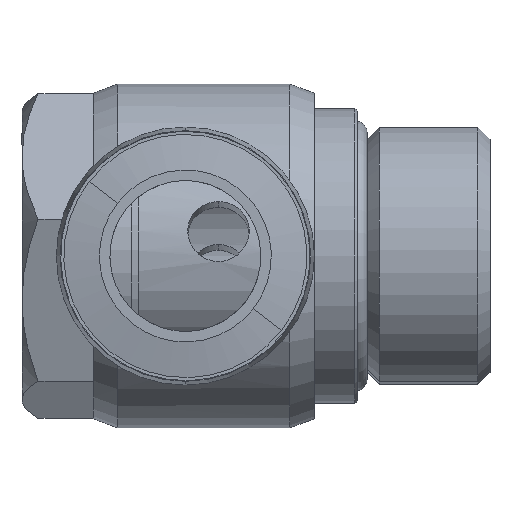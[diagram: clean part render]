
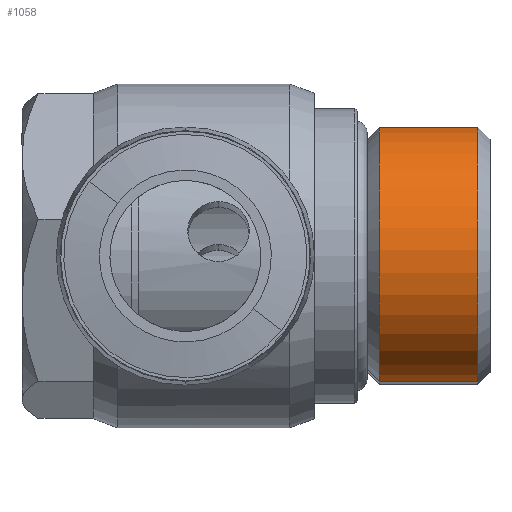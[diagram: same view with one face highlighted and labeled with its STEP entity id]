
A CAD part, left-side view. The second image highlights one B-rep face of the part: STEP entity #1058.
In plain terms, the highlighted cylindrical face has radius 10.477 mm (diameter 20.955 mm), a partial arc.
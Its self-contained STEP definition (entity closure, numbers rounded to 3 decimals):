
#354 = LINE ( 'NONE', #2047, #2406 ) ;
#552 = DIRECTION ( 'NONE',  ( 0., -1., 0. ) ) ;
#744 = VERTEX_POINT ( 'NONE', #2189 ) ;
#751 = AXIS2_PLACEMENT_3D ( 'NONE', #1001, #3947, #2445 ) ;
#778 = AXIS2_PLACEMENT_3D ( 'NONE', #3786, #552, #4212 ) ;
#827 = EDGE_LOOP ( 'NONE', ( #1186, #2454, #2687, #4398 ) ) ;
#1001 = CARTESIAN_POINT ( 'NONE',  ( 0., -27.399, 0. ) ) ;
#1058 = ADVANCED_FACE ( 'NONE', ( #4570 ), #2814, .T. ) ;
#1186 = ORIENTED_EDGE ( 'NONE', *, *, #1816, .F. ) ;
#1218 = VERTEX_POINT ( 'NONE', #2165 ) ;
#1226 = CARTESIAN_POINT ( 'NONE',  ( 0., 11.748, 10.477 ) ) ;
#1359 = EDGE_CURVE ( 'NONE', #3423, #4333, #3882, .T. ) ;
#1412 = DIRECTION ( 'NONE',  ( 0., 0., 1. ) ) ;
#1539 = AXIS2_PLACEMENT_3D ( 'NONE', #3953, #3220, #1412 ) ;
#1785 = VECTOR ( 'NONE', #1983, 1000. ) ;
#1816 = EDGE_CURVE ( 'NONE', #1218, #4333, #354, .T. ) ;
#1874 = EDGE_CURVE ( 'NONE', #1218, #744, #2174, .T. ) ;
#1886 = CARTESIAN_POINT ( 'NONE',  ( 0., -19.399, -10.477 ) ) ;
#1983 = DIRECTION ( 'NONE',  ( 0., 1., 0. ) ) ;
#2047 = CARTESIAN_POINT ( 'NONE',  ( 0., 11.748, -10.477 ) ) ;
#2165 = CARTESIAN_POINT ( 'NONE',  ( 0., -27.399, -10.477 ) ) ;
#2174 = CIRCLE ( 'NONE', #751, 10.477 ) ;
#2189 = CARTESIAN_POINT ( 'NONE',  ( 0., -27.399, 10.477 ) ) ;
#2406 = VECTOR ( 'NONE', #2830, 1000. ) ;
#2445 = DIRECTION ( 'NONE',  ( 0., 0., -1. ) ) ;
#2454 = ORIENTED_EDGE ( 'NONE', *, *, #1874, .T. ) ;
#2687 = ORIENTED_EDGE ( 'NONE', *, *, #2890, .T. ) ;
#2814 = CYLINDRICAL_SURFACE ( 'NONE', #1539, 10.477 ) ;
#2830 = DIRECTION ( 'NONE',  ( 0., 1., 0. ) ) ;
#2890 = EDGE_CURVE ( 'NONE', #744, #3423, #4476, .T. ) ;
#3220 = DIRECTION ( 'NONE',  ( 0., 1., 0. ) ) ;
#3306 = CARTESIAN_POINT ( 'NONE',  ( 0., -19.399, 10.477 ) ) ;
#3423 = VERTEX_POINT ( 'NONE', #3306 ) ;
#3786 = CARTESIAN_POINT ( 'NONE',  ( 0., -19.399, 0. ) ) ;
#3882 = CIRCLE ( 'NONE', #778, 10.477 ) ;
#3947 = DIRECTION ( 'NONE',  ( 0., 1., 0. ) ) ;
#3953 = CARTESIAN_POINT ( 'NONE',  ( 0., 11.748, 0. ) ) ;
#4212 = DIRECTION ( 'NONE',  ( 0., 0., 1. ) ) ;
#4333 = VERTEX_POINT ( 'NONE', #1886 ) ;
#4398 = ORIENTED_EDGE ( 'NONE', *, *, #1359, .T. ) ;
#4476 = LINE ( 'NONE', #1226, #1785 ) ;
#4570 = FACE_OUTER_BOUND ( 'NONE', #827, .T. ) ;
